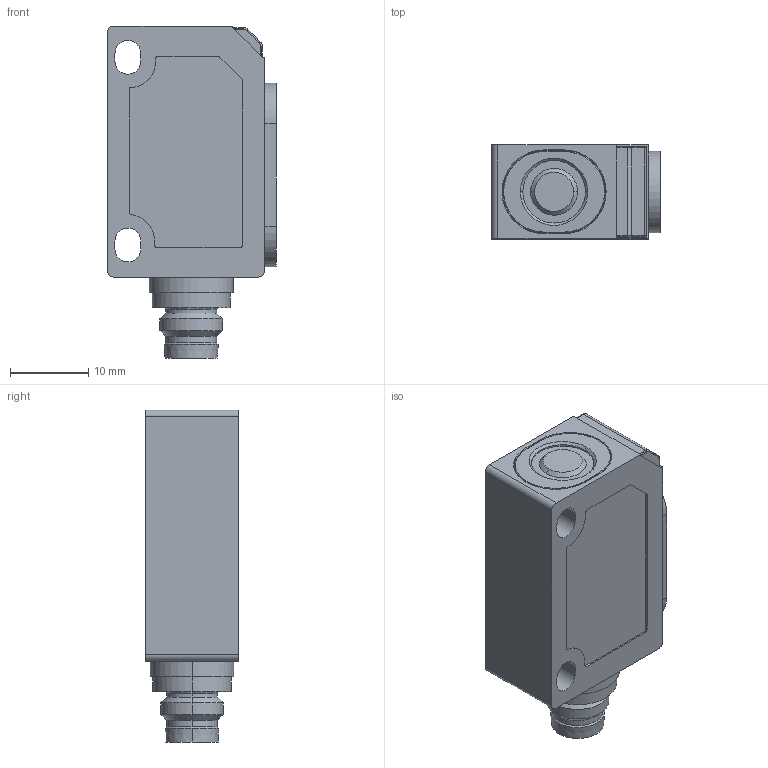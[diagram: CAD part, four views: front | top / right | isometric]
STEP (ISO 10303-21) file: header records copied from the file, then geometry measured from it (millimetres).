
FILE_DESCRIPTION((''),'2;1');
FILE_NAME('C:\Dokumente und Einstellungen\Kramp\Eigene Dateien\Microsonic Nacharbeit 2\STP\zws-15_CX_QS.stp','2005-08-10T11:37:12',('Kramp'),(''),'Autodesk Inventor 7','Autodesk Inventor 7','');
FILE_SCHEMA(('AUTOMOTIVE_DESIGN { 1 0 10303 214 1 1 1 1 }'));
Length unit declared in the file: millimetre
Products named in the file (1): zws-15_CX_QS
Bounding box: 21.6 x 12 x 42.45 mm (x, y, z)
Volume: 8141.9 mm3; surface area: 3323.5 mm2
Topology: 1 solids, 1 shells, 138 faces, 335 edges, 206 vertices
Faces by surface type: cylinder 65, plane 43, cone 16, sphere 8, torus 4, bspline 2
Entity records: 4076 total; most frequent: DIRECTION 755, CARTESIAN_POINT 752, ORIENTED_EDGE 646, EDGE_CURVE 323, AXIS2_PLACEMENT_3D 295, VERTEX_POINT 202, VECTOR 165, LINE 165
